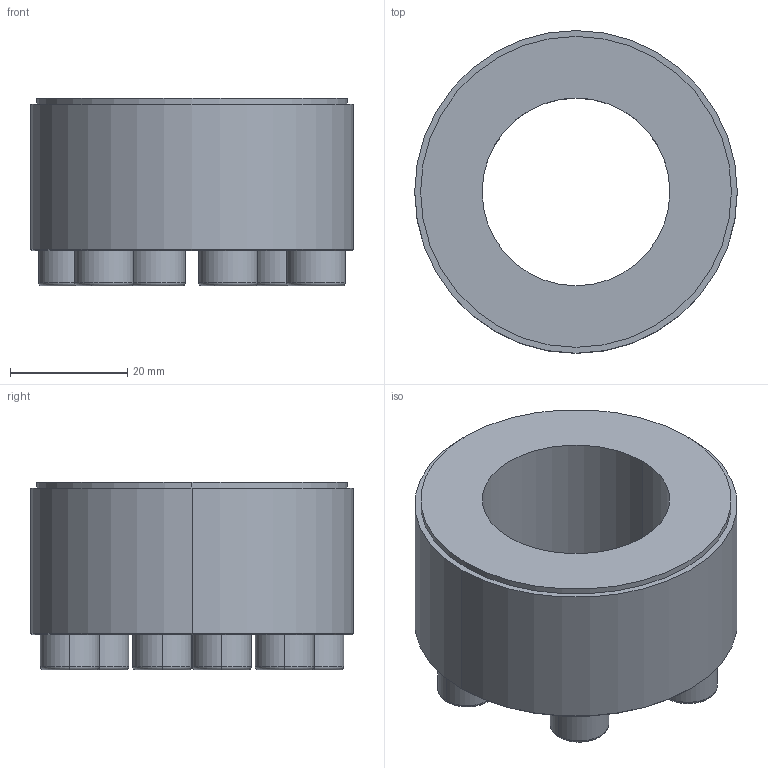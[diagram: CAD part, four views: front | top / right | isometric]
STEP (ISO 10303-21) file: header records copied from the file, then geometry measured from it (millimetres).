
FILE_DESCRIPTION (( 'STEP AP203' ), '1' );
FILE_NAME ('PL-B 32-55.STEP', '2021-10-22T07:47:13', ( '' ), ( '' ), 'SwSTEP 2.0', 'SolidWorks 2018', '' );
FILE_SCHEMA (( 'CONFIG_CONTROL_DESIGN' ));
Length unit declared in the file: millimetre
Products named in the file (1): PL-B 32-55
Bounding box: 55 x 55 x 32 mm (x, y, z)
Volume: 43113.8 mm3; surface area: 11612.8 mm2
Topology: 1 solids, 1 shells, 85 faces, 194 edges, 124 vertices
Faces by surface type: plane 51, cylinder 18, torus 12, cone 4
Entity records: 2465 total; most frequent: DIRECTION 430, CARTESIAN_POINT 404, ORIENTED_EDGE 388, EDGE_CURVE 194, AXIS2_PLACEMENT_3D 150, VECTOR 130, LINE 130, VERTEX_POINT 124
